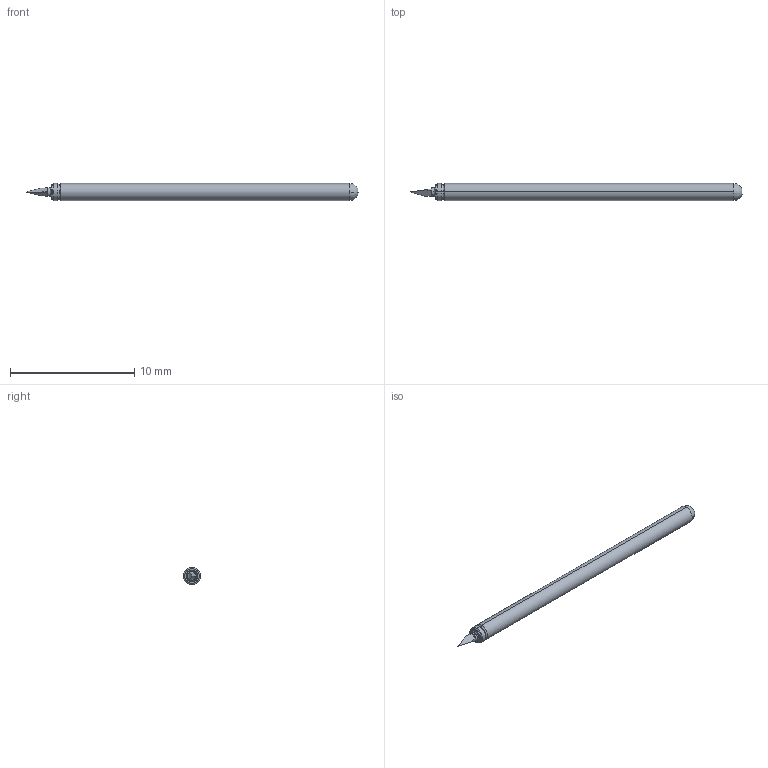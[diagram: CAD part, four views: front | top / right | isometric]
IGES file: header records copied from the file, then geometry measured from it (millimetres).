
Start section: SolidWorks IGES file using analytic representation for surfaces
Global section: file name: Z:\probe solid model mockups\Solidworks models\POGO-25 IGS files\POGO-25T1 Full.IGS; native system: SolidWorks 2006 by SolidWorks Corporation; preprocessor: SolidWorks 2006 by SolidWorks Corporation; author: tsakatani; date: 071214.093311; units: inch
Bounding box: 26.67 x 1.37 x 1.37 mm (x, y, z)
Surface area: 110.2 mm2 (no closed solid volume)
Topology: 0 solids, 0 shells, 28 faces, 178 edges, 178 vertices
Faces by surface type: revolution 16, bspline 12
